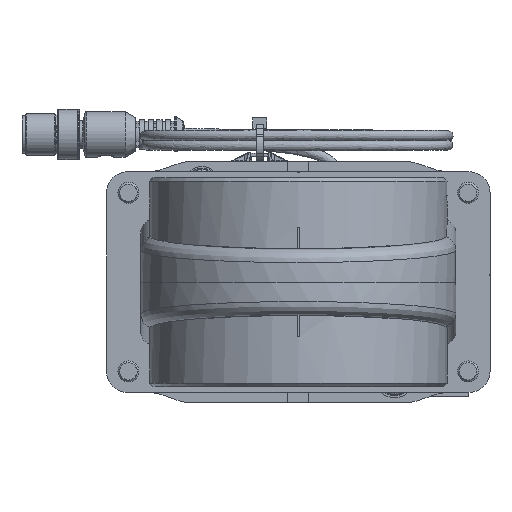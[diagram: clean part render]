
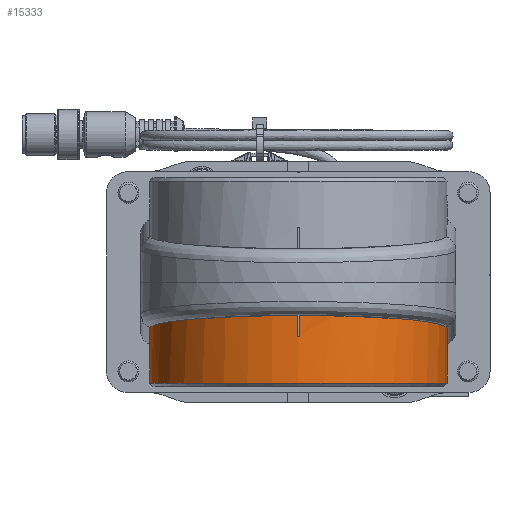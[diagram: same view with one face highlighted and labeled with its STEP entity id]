
A CAD part, front view. The second image highlights one B-rep face of the part: STEP entity #15333.
In plain terms, the highlighted cylindrical face has radius 42.5 mm (diameter 85 mm), a full revolution.
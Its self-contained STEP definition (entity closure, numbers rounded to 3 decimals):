
#4159=LINE('',#54064,#6865);
#4160=LINE('',#54068,#6866);
#6865=VECTOR('',#43552,1.);
#6866=VECTOR('',#43555,1.);
#9552=CIRCLE('',#39660,42.5);
#9553=CIRCLE('',#39662,42.5);
#15333=ADVANCED_FACE('BCT_REF_65662',(#17928,#17929),#17278,.T.);
#17278=CYLINDRICAL_SURFACE('',#39663,42.5);
#17928=FACE_BOUND('',#18617,.T.);
#17929=FACE_BOUND('',#18618,.T.);
#18617=EDGE_LOOP('',(#21675,#21676,#21677,#21678));
#18618=EDGE_LOOP('',(#21679));
#21675=ORIENTED_EDGE('',*,*,#34674,.T.);
#21676=ORIENTED_EDGE('',*,*,#34675,.T.);
#21677=ORIENTED_EDGE('',*,*,#34676,.T.);
#21678=ORIENTED_EDGE('',*,*,#34677,.F.);
#21679=ORIENTED_EDGE('',*,*,#34678,.T.);
#31254=VERTEX_POINT('',#54062);
#31255=VERTEX_POINT('',#54063);
#31256=VERTEX_POINT('',#54065);
#31257=VERTEX_POINT('',#54067);
#31258=VERTEX_POINT('',#54070);
#34674=EDGE_CURVE('',#31254,#31255,#9552,.T.);
#34675=EDGE_CURVE('',#31255,#31256,#4159,.T.);
#34676=EDGE_CURVE('BCT_REF_65661',#31256,#31257,#39305,.T.);
#34677=EDGE_CURVE('BCT_REF_216709',#31254,#31257,#4160,.T.);
#34678=EDGE_CURVE('',#31258,#31258,#9553,.T.);
#39305=ELLIPSE('',#39661,42.662,42.5);
#39660=AXIS2_PLACEMENT_3D('',#54061,#43550,#43551);
#39661=AXIS2_PLACEMENT_3D('',#54066,#43553,#43554);
#39662=AXIS2_PLACEMENT_3D('',#54069,#43556,#43557);
#39663=AXIS2_PLACEMENT_3D('',#54071,#43558,#43559);
#43550=DIRECTION('',(0.,0.,1.));
#43551=DIRECTION('',(-1.,0.,0.));
#43552=DIRECTION('',(0.,0.,-1.));
#43553=DIRECTION('',(0.,-0.087,0.996));
#43554=DIRECTION('',(0.,-0.996,-0.087));
#43555=DIRECTION('',(0.,0.,-1.));
#43556=DIRECTION('',(0.,0.,-1.));
#43557=DIRECTION('',(-1.,0.,0.));
#43558=DIRECTION('',(0.,0.,-1.));
#43559=DIRECTION('',(-1.,0.,0.));
#54061=CARTESIAN_POINT('',(0.,0.,6.));
#54062=CARTESIAN_POINT('',(-0.25,-42.499,6.));
#54063=CARTESIAN_POINT('',(0.25,-42.499,6.));
#54064=CARTESIAN_POINT('',(0.25,-42.499,0.));
#54065=CARTESIAN_POINT('',(0.25,-42.499,0.));
#54066=CARTESIAN_POINT('',(0.,0.,3.718));
#54067=CARTESIAN_POINT('',(-0.25,-42.499,0.));
#54068=CARTESIAN_POINT('',(-0.25,-42.499,0.));
#54069=CARTESIAN_POINT('',(0.,0.,19.368));
#54070=CARTESIAN_POINT('',(-42.5,0.,19.368));
#54071=CARTESIAN_POINT('',(0.,0.,0.));
